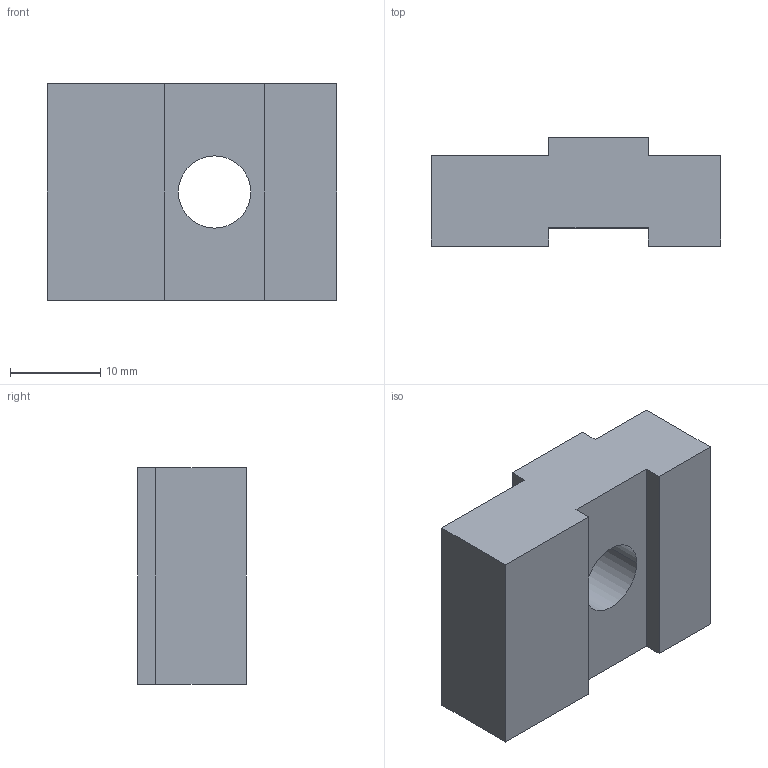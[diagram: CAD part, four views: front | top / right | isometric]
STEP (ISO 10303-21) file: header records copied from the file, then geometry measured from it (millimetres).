
FILE_DESCRIPTION (( 'STEP AP214' ), '1' );
FILE_NAME ('FGRD 10.step', '2017-04-05T07:39:20', ( '' ), ( '' ), 'SwSTEP 2.0', 'SolidWorks 2015', '' );
FILE_SCHEMA (( 'AUTOMOTIVE_DESIGN' ));
Length unit declared in the file: millimetre
Products named in the file (1): FGRD 10
Bounding box: 32 x 12 x 24 mm (x, y, z)
Volume: 7177.3 mm3; surface area: 2998.8 mm2
Topology: 1 solids, 1 shells, 16 faces, 42 edges, 28 vertices
Faces by surface type: plane 14, cylinder 2
Entity records: 528 total; most frequent: CARTESIAN_POINT 87, ORIENTED_EDGE 84, DIRECTION 80, EDGE_CURVE 42, VECTOR 38, LINE 38, VERTEX_POINT 28, AXIS2_PLACEMENT_3D 21
